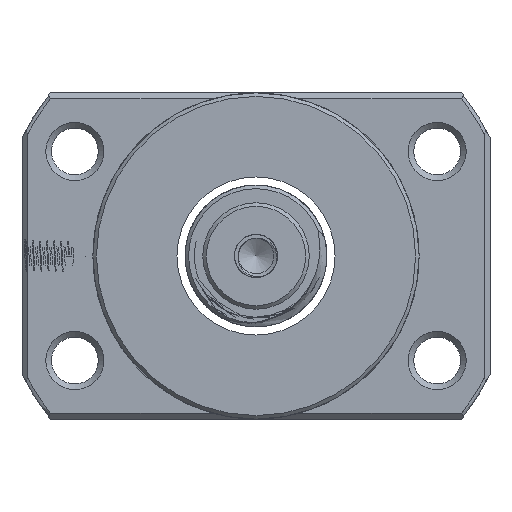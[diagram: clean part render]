
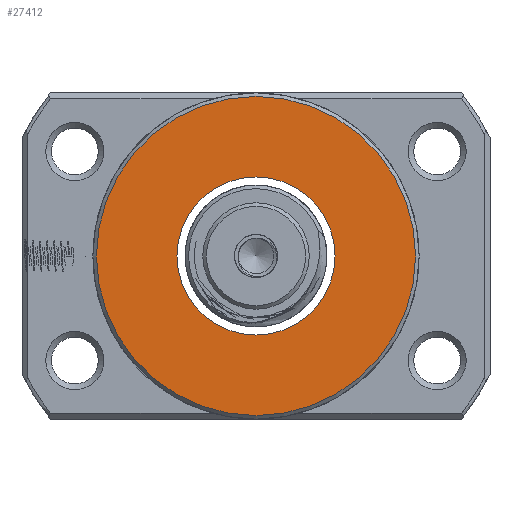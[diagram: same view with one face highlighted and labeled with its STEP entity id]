
A CAD part, left-side view. The second image highlights one B-rep face of the part: STEP entity #27412.
In plain terms, the highlighted planar face has unit normal (-1, 0, 0).
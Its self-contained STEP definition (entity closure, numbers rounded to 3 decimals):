
#4888 = CARTESIAN_POINT ( 'NONE',  ( -53.324, 0., 11.15 ) ) ;
#6952 = DIRECTION ( 'NONE',  ( -1., 0., 0. ) ) ;
#7041 = DIRECTION ( 'NONE',  ( 0., 0., 1. ) ) ;
#7094 = ORIENTED_EDGE ( 'NONE', *, *, #32952, .F. ) ;
#8831 = CARTESIAN_POINT ( 'NONE',  ( -53.324, 0., 22.5 ) ) ;
#9625 = EDGE_LOOP ( 'NONE', ( #7094 ) ) ;
#9941 = CIRCLE ( 'NONE', #29008, 11.15 ) ;
#10203 = CARTESIAN_POINT ( 'NONE',  ( -53.324, 0., 0. ) ) ;
#11168 = DIRECTION ( 'NONE',  ( -1., 0., 0. ) ) ;
#11669 = PLANE ( 'NONE',  #16311 ) ;
#13725 = CARTESIAN_POINT ( 'NONE',  ( -53.324, 11.15, 0. ) ) ;
#15455 = ORIENTED_EDGE ( 'NONE', *, *, #19897, .T. ) ;
#16311 = AXIS2_PLACEMENT_3D ( 'NONE', #13725, #11168, #24291 ) ;
#17269 = CARTESIAN_POINT ( 'NONE',  ( -53.324, 0., 0. ) ) ;
#19135 = CIRCLE ( 'NONE', #20778, 22.5 ) ;
#19169 = FACE_BOUND ( 'NONE', #9625, .T. ) ;
#19897 = EDGE_CURVE ( 'NONE', #22453, #22453, #19135, .T. ) ;
#20224 = EDGE_LOOP ( 'NONE', ( #15455 ) ) ;
#20778 = AXIS2_PLACEMENT_3D ( 'NONE', #10203, #6952, #28102 ) ;
#22453 = VERTEX_POINT ( 'NONE', #8831 ) ;
#24291 = DIRECTION ( 'NONE',  ( 0., 0., 1. ) ) ;
#25456 = DIRECTION ( 'NONE',  ( -1., 0., 0. ) ) ;
#27412 = ADVANCED_FACE ( 'NONE', ( #29426, #19169 ), #11669, .T. ) ;
#28102 = DIRECTION ( 'NONE',  ( 0., 0., 1. ) ) ;
#29008 = AXIS2_PLACEMENT_3D ( 'NONE', #17269, #25456, #7041 ) ;
#29426 = FACE_OUTER_BOUND ( 'NONE', #20224, .T. ) ;
#30991 = VERTEX_POINT ( 'NONE', #4888 ) ;
#32952 = EDGE_CURVE ( 'NONE', #30991, #30991, #9941, .T. ) ;
